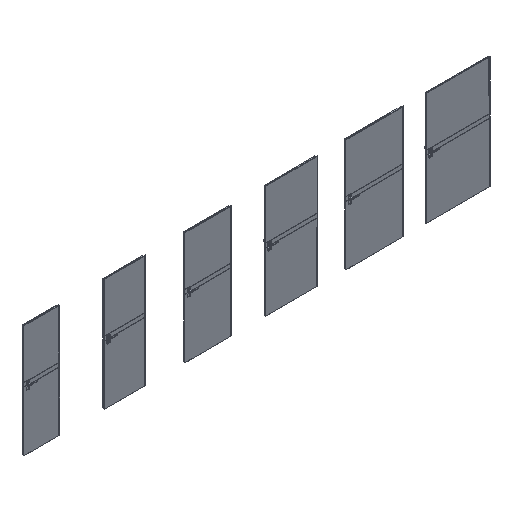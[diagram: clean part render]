
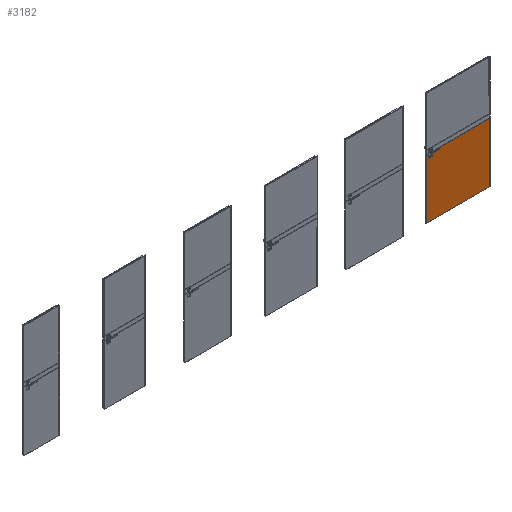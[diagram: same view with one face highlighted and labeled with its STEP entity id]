
A CAD part, isometric view. The second image highlights one B-rep face of the part: STEP entity #3182.
In plain terms, the highlighted planar face has unit normal (0, -1, 0).
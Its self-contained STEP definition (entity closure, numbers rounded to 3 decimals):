
#3182=ADVANCED_FACE('',(#5156),#4138,.F.);
#4138=PLANE('',#22463);
#5156=FACE_OUTER_BOUND('',#6488,.T.);
#6488=EDGE_LOOP('',(#10690,#10691,#10692,#10693));
#10690=ORIENTED_EDGE('',*,*,#16514,.F.);
#10691=ORIENTED_EDGE('',*,*,#16515,.T.);
#10692=ORIENTED_EDGE('',*,*,#16516,.T.);
#10693=ORIENTED_EDGE('',*,*,#16517,.T.);
#14020=VERTEX_POINT('',#37423);
#14021=VERTEX_POINT('',#37424);
#14022=VERTEX_POINT('',#37426);
#14023=VERTEX_POINT('',#37428);
#16514=EDGE_CURVE('',#14020,#14021,#18824,.T.);
#16515=EDGE_CURVE('',#14020,#14022,#18825,.T.);
#16516=EDGE_CURVE('',#14022,#14023,#18826,.T.);
#16517=EDGE_CURVE('',#14023,#14021,#18827,.T.);
#18824=LINE('',#37422,#20684);
#18825=LINE('',#37425,#20685);
#18826=LINE('',#37427,#20686);
#18827=LINE('',#37429,#20687);
#20684=VECTOR('',#26635,1.);
#20685=VECTOR('',#26636,1.);
#20686=VECTOR('',#26637,1.);
#20687=VECTOR('',#26638,1.);
#22463=AXIS2_PLACEMENT_3D('',#37430,#26639,#26640);
#26635=DIRECTION('',(0.,0.,-1.));
#26636=DIRECTION('',(-1.,0.,0.));
#26637=DIRECTION('',(0.,0.,-1.));
#26638=DIRECTION('',(1.,0.,0.));
#26639=DIRECTION('',(0.,1.,0.));
#26640=DIRECTION('',(-1.,0.,0.));
#37422=CARTESIAN_POINT('',(8072.,-39.3,2030.));
#37423=CARTESIAN_POINT('',(8072.,-39.3,1065.));
#37424=CARTESIAN_POINT('',(8072.,-39.3,2.));
#37425=CARTESIAN_POINT('',(8072.,-39.3,1065.));
#37426=CARTESIAN_POINT('',(6928.,-39.3,1065.));
#37427=CARTESIAN_POINT('',(6928.,-39.3,2030.));
#37428=CARTESIAN_POINT('',(6928.,-39.3,2.));
#37429=CARTESIAN_POINT('',(7178.,-39.3,2.));
#37430=CARTESIAN_POINT('',(7178.,-39.3,2030.));
